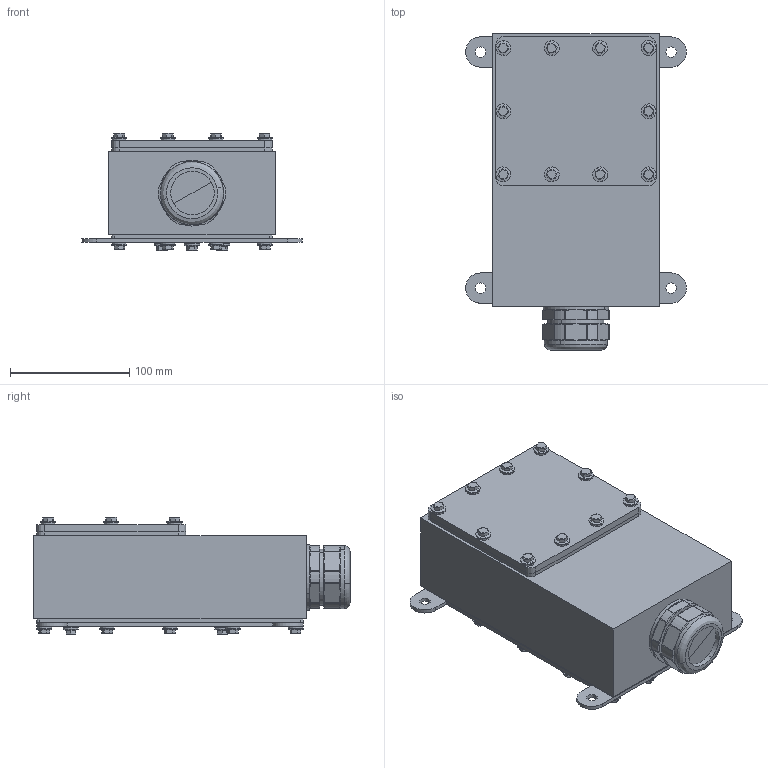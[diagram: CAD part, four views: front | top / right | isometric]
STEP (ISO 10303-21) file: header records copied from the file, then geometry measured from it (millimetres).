
FILE_DESCRIPTION (( 'STEP AP203' ), '1' );
FILE_NAME ('LD-FT.STEP', '2022-04-07T17:28:43', ( '' ), ( '' ), 'SwSTEP 2.0', 'SolidWorks 2021', '' );
FILE_SCHEMA (( 'CONFIG_CONTROL_DESIGN' ));
Length unit declared in the file: inch
Products named in the file (24): 94639A455_94639A455; 92125A186_92125A186; 400102; 201274; 201272; iv3-500_600_fov_filter_cable_NO FOV; 800005; SP-M5-2; PG36-N03; 201271; 93635A175_93635A175; 94639A453_94639A453; PG36-I01; PG36-01-01-01-03; TJS050023X; LD-FT; 500407; PG36-S01; 800004; PG36-B01; iv3-l5c_l5m_l6c_l6m; 400617; 400616; 201273
Assembly tree (80 placements, depth 3):
  LD-FT
    201271
    201272
      201273
      SP-M5-2  x24
    201274
    400616
    400617
    500407
    PG36-01-01-01-03
      PG36-B01
      PG36-I01
      PG36-S01
      PG36-N03
    800004  x24
      800005
      400102
    93635A175_93635A175  x3
    TJS050023X  x3
    94639A453_94639A453  x3
    94639A455_94639A455  x3
    92125A186_92125A186  x4
    iv3-500_600_fov_filter_cable_NO FOV
    iv3-l5c_l5m_l6c_l6m
Bounding box: 185.35 x 265.6 x 98.23 mm (x, y, z)
Volume: 850014.8 mm3; surface area: 472477.7 mm2
Topology: 105 solids, 108 shells, 9867 faces, 25372 edges, 16140 vertices
Faces by surface type: cylinder 3843, plane 3682, cone 1184, bspline 1103, torus 55
Entity records: 226308 total; most frequent: CARTESIAN_POINT 92136, ORIENTED_EDGE 28970, DIRECTION 24797, EDGE_CURVE 14485, VERTEX_POINT 9030, AXIS2_PLACEMENT_3D 8922, VECTOR 6953, LINE 6953
